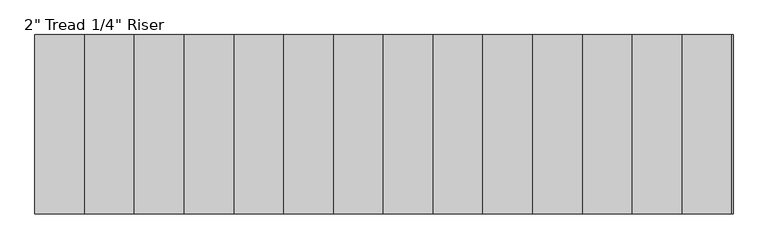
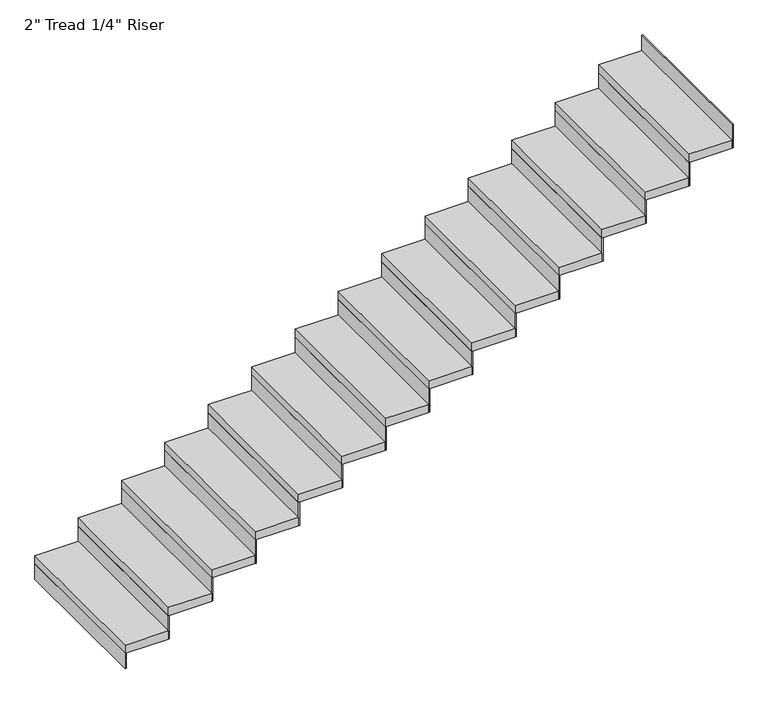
"""IFC4 building model written with IfcOpenShell, lengths in millimetres: stair flight geometry."""

import ifcopenshell
import ifcopenshell.guid

model = None  # the IFC model being written
_history = None  # IfcOwnerHistory: only IFC2X3 demands one
_inside = {}  # id of a spatial element -> (the spatial element, [elements in it])
_under = {}  # id of a project, library or spatial element -> (it, [spatial elements below it])
_declared = {}  # id of a project -> (the project, [libraries it declares])
_typed = {}  # id of a type object -> (the type object, [elements of that type])
_made_of = {}  # id of a material, layer set ... -> (it, [elements and type objects made of it])


def new_model(schema):
    """Start an empty IFC model of exactly this schema.

    Asked for "IFC4X3", IfcOpenShell would pick the latest addendum, in which some entities
    have other attributes; the version numbers below select the first issue.
    IFC2X3 requires an IfcOwnerHistory on every rooted entity: one is made here for all.
    """
    global model, _history
    if schema == "IFC4X3":
        model = ifcopenshell.file(schema_version=(4, 3, 0, 0))
    else:
        model = ifcopenshell.file(schema=schema)
    _inside.clear()
    _under.clear()
    _declared.clear()
    _typed.clear()
    _made_of.clear()
    _history = None
    if model.schema == "IFC2X3":
        org = make("IfcOrganization", Name="unknown")
        user = make(
            "IfcPersonAndOrganization",
            ThePerson=make("IfcPerson", FamilyName="unknown"),
            TheOrganization=org,
        )
        app = make(
            "IfcApplication",
            ApplicationDeveloper=org,
            Version="unknown",
            ApplicationFullName="unknown",
            ApplicationIdentifier="unknown",
        )
        _history = make(
            "IfcOwnerHistory",
            OwningUser=user,
            OwningApplication=app,
            ChangeAction="ADDED",
            CreationDate=0,
        )
    return model


def make(cls, **values):
    """One entity of the class cls with the attributes given. An attribute that is None is left unset."""
    return model.create_entity(
        cls, **{name: value for name, value in values.items() if value is not None}
    )


def rooted(cls, **values):
    """An entity with a GlobalId (a new one), such as an element, a storey or a relation."""
    return make(cls, GlobalId=ifcopenshell.guid.new(), OwnerHistory=_history, **values)


def si_unit(unit_type, name, prefix=None):
    """IfcSIUnit, for example si_unit("LENGTHUNIT", "METRE", prefix="MILLI")."""
    return make("IfcSIUnit", UnitType=unit_type, Prefix=prefix, Name=name)


def assignment(units):
    """IfcUnitAssignment: the units of a project."""
    return None if units is None else make("IfcUnitAssignment", Units=units)


def point(xyz):
    """IfcCartesianPoint."""
    return None if xyz is None else make("IfcCartesianPoint", Coordinates=xyz)


def direction(xyz):
    """IfcDirection."""
    return None if xyz is None else make("IfcDirection", DirectionRatios=xyz)


def frame(location, z_axis=None, x_axis=None):
    """IfcAxis2Placement3D, a coordinate frame: its origin and axes. An axis left out is left unset."""
    return make(
        "IfcAxis2Placement3D",
        Location=point(location),
        Axis=direction(z_axis),
        RefDirection=direction(x_axis),
    )


def origin():
    """The frame at (0, 0, 0) with its axes left unset."""
    return frame((0.0, 0.0, 0.0))


def origin_with_axes():
    """The frame at (0, 0, 0) with the z axis (0, 0, 1) and the x axis (1, 0, 0) written out."""
    return frame((0.0, 0.0, 0.0), z_axis=(0.0, 0.0, 1.0), x_axis=(1.0, 0.0, 0.0))


def place(relative_to, where):
    """IfcLocalPlacement: puts the frame where relative to a parent placement (None: the world)."""
    return make(
        "IfcLocalPlacement", PlacementRelTo=relative_to, RelativePlacement=where
    )


def context(
    kind, dimensions, precision=None, world=None, true_north=None, identifier=None
):
    """IfcGeometricRepresentationContext, for example the 3D "Model" context."""
    return make(
        "IfcGeometricRepresentationContext",
        ContextIdentifier=identifier,
        ContextType=kind,
        CoordinateSpaceDimension=dimensions,
        Precision=precision,
        WorldCoordinateSystem=world,
        TrueNorth=true_north,
    )


def project(units=None, contexts=None):
    """IfcProject with its units and contexts."""
    return rooted(
        "IfcProject",
        Name="project",
        RepresentationContexts=contexts,
        UnitsInContext=assignment(units),
    )


def spatial(cls, under=None, at=None, **own):
    """A site, building, storey or space (cls), placed at a placement, below another one or the project."""
    s = rooted(cls, ObjectPlacement=at, **own)
    if under is not None:
        _under.setdefault(under.id(), (under, []))[1].append(s)
    return s


def polyline(points):
    """IfcPolyline through the points."""
    return make("IfcPolyline", Points=[point(p) for p in points])


def outline(outer, holes=None, kind="AREA"):
    """IfcArbitraryClosedProfileDef: a profile drawn as a closed curve; with holes, ...WithVoids."""
    if holes is None:
        return make("IfcArbitraryClosedProfileDef", ProfileType=kind, OuterCurve=outer)
    return make(
        "IfcArbitraryProfileDefWithVoids",
        ProfileType=kind,
        OuterCurve=outer,
        InnerCurves=holes,
    )


def extrude(swept, where, along, depth):
    """IfcExtrudedAreaSolid: the profile swept, set in the frame where, extruded along a direction by depth."""
    return make(
        "IfcExtrudedAreaSolid",
        SweptArea=swept,
        Position=where,
        ExtrudedDirection=direction(along),
        Depth=depth,
    )


def shape(context_of_items, identifier, shape_type, items):
    """IfcShapeRepresentation: the items that make up one representation, for example the "Body"."""
    return make(
        "IfcShapeRepresentation",
        ContextOfItems=context_of_items,
        RepresentationIdentifier=identifier,
        RepresentationType=shape_type,
        Items=items,
    )


def source(mapping_origin, context_of_items, identifier, shape_type, items):
    """IfcRepresentationMap: a shape defined once, which mapped items show again and again."""
    return make(
        "IfcRepresentationMap",
        MappingOrigin=mapping_origin,
        MappedRepresentation=shape(context_of_items, identifier, shape_type, items),
    )


def transform(
    local_origin,
    x_axis=None,
    y_axis=None,
    z_axis=None,
    scale=None,
    scale2=None,
    scale3=None,
    uniform=True,
):
    """IfcCartesianTransformationOperator3D, or its non-uniform kind. x_axis, y_axis, z_axis: its Axis1, 2, 3."""
    if uniform:
        return make(
            "IfcCartesianTransformationOperator3D",
            Axis1=direction(x_axis),
            Axis2=direction(y_axis),
            LocalOrigin=point(local_origin),
            Scale=scale,
            Axis3=direction(z_axis),
        )
    return make(
        "IfcCartesianTransformationOperator3DnonUniform",
        Axis1=direction(x_axis),
        Axis2=direction(y_axis),
        LocalOrigin=point(local_origin),
        Scale=scale,
        Axis3=direction(z_axis),
        Scale2=scale2,
        Scale3=scale3,
    )


def mapped(mapping_source, mapping_target):
    """IfcMappedItem: shows the shape of a source again, moved by a transform."""
    return make(
        "IfcMappedItem", MappingSource=mapping_source, MappingTarget=mapping_target
    )


def made_of(thing, what):
    """Note that an element or type object is made of a material, layer set ...; save() writes the relation."""
    if what is not None:
        _made_of.setdefault(what.id(), (what, []))[1].append(thing)
    return thing


def element(
    cls,
    number,
    at=None,
    inside=None,
    cuts=None,
    type_object=None,
    material=None,
    context=None,
    identifier="Body",
    shape_type=None,
    held_by="IfcProductDefinitionShape",
    body=None,
    shapes=None,
    **own,
):
    """One element of the class cls, such as IfcWall. Its Tag is "e" and its number.

    at: its placement. inside: the storey or other place that contains it. cuts: it is an
    opening in that element (IfcRelVoidsElement). A single representation is given by context,
    identifier, shape_type and body (its items); several are given by shapes. held_by: the class
    of the entity that holds the representations. save() writes the other relations.
    """
    e = rooted(cls, Tag="e%d" % number, ObjectPlacement=at, **own)
    if body is not None:
        shapes = [shape(context, identifier, shape_type, body)]
    if shapes is not None:
        e.Representation = make(held_by, Representations=shapes)
    if inside is not None:
        _inside.setdefault(inside.id(), (inside, []))[1].append(e)
    if cuts is not None:
        rooted(
            "IfcRelVoidsElement", RelatingBuildingElement=cuts, RelatedOpeningElement=e
        )
    if type_object is not None:
        _typed.setdefault(type_object.id(), (type_object, []))[1].append(e)
    return made_of(e, material)


def aggregate(whole, parts):
    """IfcRelAggregates: a whole, such as a stair, and the parts it consists of."""
    return rooted("IfcRelAggregates", RelatingObject=whole, RelatedObjects=parts)


def save(model, path):
    """Write the relations noted so far, then the file.

    IfcRelAggregates (storeys below a building ...), IfcRelContainedInSpatialStructure (elements
    in a storey), IfcRelDefinesByType, IfcRelAssociatesMaterial and IfcRelDeclares: one each for
    every whole, place, type object, material and project.
    """
    for whole, parts in _under.values():
        aggregate(whole, parts)
    for where, things in _inside.values():
        rooted(
            "IfcRelContainedInSpatialStructure",
            RelatedElements=things,
            RelatingStructure=where,
        )
    for kind, things in _typed.values():
        rooted("IfcRelDefinesByType", RelatedObjects=things, RelatingType=kind)
    for what, things in _made_of.values():
        rooted("IfcRelAssociatesMaterial", RelatedObjects=things, RelatingMaterial=what)
    for by, libraries in _declared.values():
        rooted("IfcRelDeclares", RelatingContext=by, RelatedDefinitions=libraries)
    model.write(path)


def stair_flight_5dec0d6c(model_context):
    return source(origin(), model_context, "Body", "SweptSolid", [
        extrude(outline(polyline([(157956.5711992, -2391.9711813), (157950.2211992, -2391.9711813), (157950.2211992, -1477.5711813), (157956.5711992, -1477.5711813), (157956.5711992, -2391.9711813)])), origin_with_axes(), (0.0, 0.0, 1.0), 94.3428571),
        extrude(outline(polyline([(158204.2211992, -1477.5711813), (158204.2211992, -2391.9711813), (157950.2211992, -2391.9711813), (157950.2211992, -1477.5711813), (158204.2211992, -1477.5711813)])), frame((0.0, 0.0, 94.3428571), z_axis=(0.0, 0.0, 1.0), x_axis=(1.0, 0.0, 0.0)), (0.0, 0.0, 1.0), 50.8),
        extrude(outline(polyline([(158210.5711992, -2391.9711813), (158204.2211992, -2391.9711813), (158204.2211992, -1477.5711813), (158210.5711992, -1477.5711813), (158210.5711992, -2391.9711813)])), frame((0.0, 0.0, 94.3428571), z_axis=(0.0, 0.0, 1.0), x_axis=(1.0, 0.0, 0.0)), (0.0, 0.0, 1.0), 145.1428571),
        extrude(outline(polyline([(158458.2211992, -1477.5711813), (158458.2211992, -2391.9711813), (158204.2211992, -2391.9711813), (158204.2211992, -1477.5711813), (158458.2211992, -1477.5711813)])), frame((0.0, 0.0, 239.4857143), z_axis=(0.0, 0.0, 1.0), x_axis=(1.0, 0.0, 0.0)), (0.0, 0.0, 1.0), 50.8),
        extrude(outline(polyline([(158464.5711992, -2391.9711813), (158458.2211992, -2391.9711813), (158458.2211992, -1477.5711813), (158464.5711992, -1477.5711813), (158464.5711992, -2391.9711813)])), frame((0.0, 0.0, 239.4857143), z_axis=(0.0, 0.0, 1.0), x_axis=(1.0, 0.0, 0.0)), (0.0, 0.0, 1.0), 145.1428571),
        extrude(outline(polyline([(158712.2211992, -1477.5711813), (158712.2211992, -2391.9711813), (158458.2211992, -2391.9711813), (158458.2211992, -1477.5711813), (158712.2211992, -1477.5711813)])), frame((0.0, 0.0, 384.6285714), z_axis=(0.0, 0.0, 1.0), x_axis=(1.0, 0.0, 0.0)), (0.0, 0.0, 1.0), 50.8),
        extrude(outline(polyline([(158718.5711992, -2391.9711813), (158712.2211992, -2391.9711813), (158712.2211992, -1477.5711813), (158718.5711992, -1477.5711813), (158718.5711992, -2391.9711813)])), frame((0.0, 0.0, 384.6285714), z_axis=(0.0, 0.0, 1.0), x_axis=(1.0, 0.0, 0.0)), (0.0, 0.0, 1.0), 145.1428571),
        extrude(outline(polyline([(158966.2211992, -1477.5711813), (158966.2211992, -2391.9711813), (158712.2211992, -2391.9711813), (158712.2211992, -1477.5711813), (158966.2211992, -1477.5711813)])), frame((0.0, 0.0, 529.7714286), z_axis=(0.0, 0.0, 1.0), x_axis=(1.0, 0.0, 0.0)), (0.0, 0.0, 1.0), 50.8),
        extrude(outline(polyline([(158972.5711992, -2391.9711813), (158966.2211992, -2391.9711813), (158966.2211992, -1477.5711813), (158972.5711992, -1477.5711813), (158972.5711992, -2391.9711813)])), frame((0.0, 0.0, 529.7714286), z_axis=(0.0, 0.0, 1.0), x_axis=(1.0, 0.0, 0.0)), (0.0, 0.0, 1.0), 145.1428571),
        extrude(outline(polyline([(159220.2211992, -1477.5711813), (159220.2211992, -2391.9711813), (158966.2211992, -2391.9711813), (158966.2211992, -1477.5711813), (159220.2211992, -1477.5711813)])), frame((0.0, 0.0, 674.9142857), z_axis=(0.0, 0.0, 1.0), x_axis=(1.0, 0.0, 0.0)), (0.0, 0.0, 1.0), 50.8),
        extrude(outline(polyline([(159226.5711992, -2391.9711813), (159220.2211992, -2391.9711813), (159220.2211992, -1477.5711813), (159226.5711992, -1477.5711813), (159226.5711992, -2391.9711813)])), frame((0.0, 0.0, 674.9142857), z_axis=(0.0, 0.0, 1.0), x_axis=(1.0, 0.0, 0.0)), (0.0, 0.0, 1.0), 145.1428571),
        extrude(outline(polyline([(159474.2211992, -1477.5711813), (159474.2211992, -2391.9711813), (159220.2211992, -2391.9711813), (159220.2211992, -1477.5711813), (159474.2211992, -1477.5711813)])), frame((0.0, 0.0, 820.0571429), z_axis=(0.0, 0.0, 1.0), x_axis=(1.0, 0.0, 0.0)), (0.0, 0.0, 1.0), 50.8),
        extrude(outline(polyline([(159480.5711992, -2391.9711813), (159474.2211992, -2391.9711813), (159474.2211992, -1477.5711813), (159480.5711992, -1477.5711813), (159480.5711992, -2391.9711813)])), frame((0.0, 0.0, 820.0571429), z_axis=(0.0, 0.0, 1.0), x_axis=(1.0, 0.0, 0.0)), (0.0, 0.0, 1.0), 145.1428571),
        extrude(outline(polyline([(159728.2211992, -1477.5711813), (159728.2211992, -2391.9711813), (159474.2211992, -2391.9711813), (159474.2211992, -1477.5711813), (159728.2211992, -1477.5711813)])), frame((0.0, 0.0, 965.2), z_axis=(0.0, 0.0, 1.0), x_axis=(1.0, 0.0, 0.0)), (0.0, 0.0, 1.0), 50.8),
        extrude(outline(polyline([(159734.5711992, -2391.9711813), (159728.2211992, -2391.9711813), (159728.2211992, -1477.5711813), (159734.5711992, -1477.5711813), (159734.5711992, -2391.9711813)])), frame((0.0, 0.0, 965.2), z_axis=(0.0, 0.0, 1.0), x_axis=(1.0, 0.0, 0.0)), (0.0, 0.0, 1.0), 145.1428571),
        extrude(outline(polyline([(159982.2211992, -1477.5711813), (159982.2211992, -2391.9711813), (159728.2211992, -2391.9711813), (159728.2211992, -1477.5711813), (159982.2211992, -1477.5711813)])), frame((0.0, 0.0, 1110.3428571), z_axis=(0.0, 0.0, 1.0), x_axis=(1.0, 0.0, 0.0)), (0.0, 0.0, 1.0), 50.8),
        extrude(outline(polyline([(159988.5711992, -2391.9711813), (159982.2211992, -2391.9711813), (159982.2211992, -1477.5711813), (159988.5711992, -1477.5711813), (159988.5711992, -2391.9711813)])), frame((0.0, 0.0, 1110.3428571), z_axis=(0.0, 0.0, 1.0), x_axis=(1.0, 0.0, 0.0)), (0.0, 0.0, 1.0), 145.1428571),
        extrude(outline(polyline([(160236.2211992, -1477.5711813), (160236.2211992, -2391.9711813), (159982.2211992, -2391.9711813), (159982.2211992, -1477.5711813), (160236.2211992, -1477.5711813)])), frame((0.0, 0.0, 1255.4857143), z_axis=(0.0, 0.0, 1.0), x_axis=(1.0, 0.0, 0.0)), (0.0, 0.0, 1.0), 50.8),
        extrude(outline(polyline([(160242.5711992, -2391.9711813), (160236.2211992, -2391.9711813), (160236.2211992, -1477.5711813), (160242.5711992, -1477.5711813), (160242.5711992, -2391.9711813)])), frame((0.0, 0.0, 1255.4857143), z_axis=(0.0, 0.0, 1.0), x_axis=(1.0, 0.0, 0.0)), (0.0, 0.0, 1.0), 145.1428571),
        extrude(outline(polyline([(160490.2211992, -1477.5711813), (160490.2211992, -2391.9711813), (160236.2211992, -2391.9711813), (160236.2211992, -1477.5711813), (160490.2211992, -1477.5711813)])), frame((0.0, 0.0, 1400.6285714), z_axis=(0.0, 0.0, 1.0), x_axis=(1.0, 0.0, 0.0)), (0.0, 0.0, 1.0), 50.8),
        extrude(outline(polyline([(160496.5711992, -2391.9711813), (160490.2211992, -2391.9711813), (160490.2211992, -1477.5711813), (160496.5711992, -1477.5711813), (160496.5711992, -2391.9711813)])), frame((0.0, 0.0, 1400.6285714), z_axis=(0.0, 0.0, 1.0), x_axis=(1.0, 0.0, 0.0)), (0.0, 0.0, 1.0), 145.1428571),
        extrude(outline(polyline([(160744.2211992, -1477.5711813), (160744.2211992, -2391.9711813), (160490.2211992, -2391.9711813), (160490.2211992, -1477.5711813), (160744.2211992, -1477.5711813)])), frame((0.0, 0.0, 1545.7714286), z_axis=(0.0, 0.0, 1.0), x_axis=(1.0, 0.0, 0.0)), (0.0, 0.0, 1.0), 50.8),
        extrude(outline(polyline([(160750.5711992, -2391.9711813), (160744.2211992, -2391.9711813), (160744.2211992, -1477.5711813), (160750.5711992, -1477.5711813), (160750.5711992, -2391.9711813)])), frame((0.0, 0.0, 1545.7714286), z_axis=(0.0, 0.0, 1.0), x_axis=(1.0, 0.0, 0.0)), (0.0, 0.0, 1.0), 145.1428571),
        extrude(outline(polyline([(160998.2211992, -1477.5711813), (160998.2211992, -2391.9711813), (160744.2211992, -2391.9711813), (160744.2211992, -1477.5711813), (160998.2211992, -1477.5711813)])), frame((0.0, 0.0, 1690.9142857), z_axis=(0.0, 0.0, 1.0), x_axis=(1.0, 0.0, 0.0)), (0.0, 0.0, 1.0), 50.8),
        extrude(outline(polyline([(161004.5711992, -2391.9711813), (160998.2211992, -2391.9711813), (160998.2211992, -1477.5711813), (161004.5711992, -1477.5711813), (161004.5711992, -2391.9711813)])), frame((0.0, 0.0, 1690.9142857), z_axis=(0.0, 0.0, 1.0), x_axis=(1.0, 0.0, 0.0)), (0.0, 0.0, 1.0), 145.1428571),
        extrude(outline(polyline([(161252.2211992, -1477.5711813), (161252.2211992, -2391.9711813), (160998.2211992, -2391.9711813), (160998.2211992, -1477.5711813), (161252.2211992, -1477.5711813)])), frame((0.0, 0.0, 1836.0571429), z_axis=(0.0, 0.0, 1.0), x_axis=(1.0, 0.0, 0.0)), (0.0, 0.0, 1.0), 50.8),
        extrude(outline(polyline([(161258.5711992, -2391.9711813), (161252.2211992, -2391.9711813), (161252.2211992, -1477.5711813), (161258.5711992, -1477.5711813), (161258.5711992, -2391.9711813)])), frame((0.0, 0.0, 1836.0571429), z_axis=(0.0, 0.0, 1.0), x_axis=(1.0, 0.0, 0.0)), (0.0, 0.0, 1.0), 145.1428571),
        extrude(outline(polyline([(161512.5711992, -2391.9711813), (161506.2211992, -2391.9711813), (161506.2211992, -1477.5711813), (161512.5711992, -1477.5711813), (161512.5711992, -2391.9711813)])), frame((0.0, 0.0, 1981.2), z_axis=(0.0, 0.0, 1.0), x_axis=(1.0, 0.0, 0.0)), (0.0, 0.0, 1.0), 145.1428571),
        extrude(outline(polyline([(161506.2211992, -1477.5711813), (161506.2211992, -2391.9711813), (161252.2211992, -2391.9711813), (161252.2211992, -1477.5711813), (161506.2211992, -1477.5711813)])), frame((0.0, 0.0, 1981.2), z_axis=(0.0, 0.0, 1.0), x_axis=(1.0, 0.0, 0.0)), (0.0, 0.0, 1.0), 50.8),
    ])


if __name__ == "__main__":
    model = new_model("IFC4")
    model_context = context("Model", 3, world=origin())
    ifc_project = project(units=[si_unit("LENGTHUNIT", "METRE", prefix="MILLI")], contexts=[model_context])
    site = spatial("IfcSite", under=ifc_project)
    building = spatial("IfcBuilding", under=site)
    placement = place(None, origin())
    stair_flight_shape = stair_flight_5dec0d6c(model_context)
    element("IfcStairFlight", 1, ObjectType="2\" Tread 1/4\" Riser", at=placement, inside=building, context=model_context, shape_type="MappedRepresentation", body=[
        mapped(stair_flight_shape, transform((0.0, 0.0, 0.0), x_axis=(1.0, 0.0, 0.0), y_axis=(0.0, 1.0, 0.0), z_axis=(0.0, 0.0, 1.0))),
    ])
    save(model, "model.ifc")
